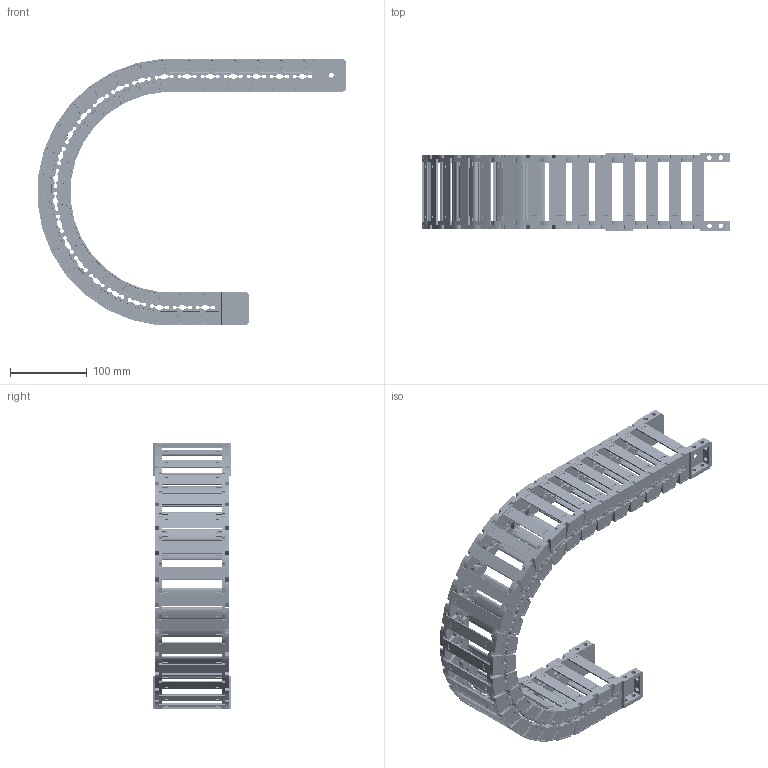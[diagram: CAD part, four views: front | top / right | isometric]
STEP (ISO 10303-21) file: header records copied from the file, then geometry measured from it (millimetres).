
FILE_DESCRIPTION((''),'2;1');
FILE_NAME('JY-35X77-R150_ASM','2025-01-06T09:03:09',('admin'),(''),'CREO PARAMETRIC BY PTC INC, 2021023','CREO PARAMETRIC BY PTC INC, 2021023','');
FILE_SCHEMA(('CONFIG_CONTROL_DESIGN'));
Length unit declared in the file: millimetre
Products named in the file (11): 35XL-L; YP; 35XL-R; ASM0001_ASM; 35-LTT-A-L; 35-LTT-A-R; 35XL-LTT-A_ASM; 35-LTT-B-L; 35-LTT-B-R; 35XL-LTT-B_ASM; JY-35X77-R150_ASM
Assembly tree (37 placements, depth 3):
  JY-35X77-R150_ASM
    ASM0001_ASM  x23
      35XL-L
      YP
      35XL-R
    35XL-LTT-A_ASM
      35-LTT-A-L
      YP  x2
      35-LTT-A-R
    35XL-LTT-B_ASM
      35-LTT-B-L
      YP  x2
      35-LTT-B-R
Bounding box: 402.36 x 101 x 347.06 mm (x, y, z)
Volume: 730492.8 mm3; surface area: 437001.5 mm2
Topology: 100 solids, 100 shells, 8160 faces, 24472 edges, 16520 vertices
Faces by surface type: plane 4618, cylinder 2678, cone 528, extrusion 192, bspline 144
Entity records: 27906 total; most frequent: CARTESIAN_POINT 6170, ORIENTED_EDGE 4640, DIRECTION 4369, EDGE_CURVE 2320, VERTEX_POINT 1568, AXIS2_PLACEMENT_3D 1476, VECTOR 1417, LINE 1401
